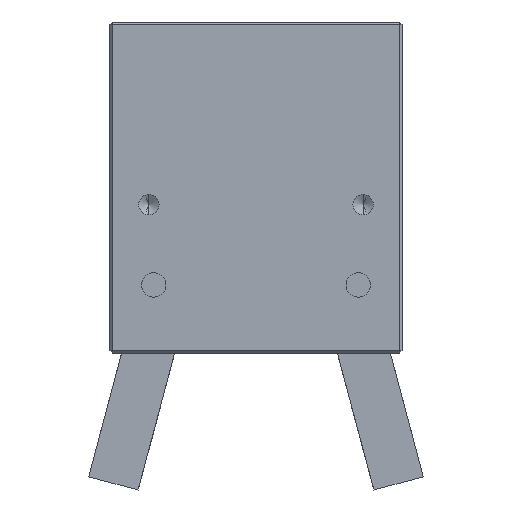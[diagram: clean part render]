
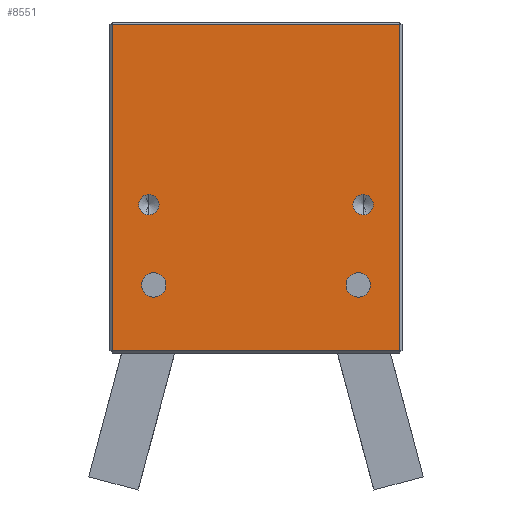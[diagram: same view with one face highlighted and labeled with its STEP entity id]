
A CAD part, left-side view. The second image highlights one B-rep face of the part: STEP entity #8551.
In plain terms, the highlighted planar face has unit normal (-1, 0, 0).
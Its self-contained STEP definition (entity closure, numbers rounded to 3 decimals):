
#71 = VERTEX_POINT ( 'NONE', #14282 ) ;
#72 = VERTEX_POINT ( 'NONE', #14222 ) ;
#74 = EDGE_CURVE ( 'NONE', #71, #72, #14281, .T. ) ;
#86 = VERTEX_POINT ( 'NONE', #14212 ) ;
#93 = VERTEX_POINT ( 'NONE', #14251 ) ;
#104 = EDGE_CURVE ( 'NONE', #93, #86, #14279, .T. ) ;
#3248 = ORIENTED_EDGE ( 'NONE', *, *, #104, .F. ) ;
#5480 = ORIENTED_EDGE ( 'NONE', *, *, #8408, .F. ) ;
#8408 = EDGE_CURVE ( 'NONE', #8783, #14659, #16190, .T. ) ;
#8531 = EDGE_LOOP ( 'NONE', ( #8563, #8570 ) ) ;
#8535 = ORIENTED_EDGE ( 'NONE', *, *, #74, .F. ) ;
#8536 = EDGE_LOOP ( 'NONE', ( #8550, #3248 ) ) ;
#8538 = EDGE_LOOP ( 'NONE', ( #8545, #8535 ) ) ;
#8542 = ORIENTED_EDGE ( 'NONE', *, *, #8785, .F. ) ;
#8544 = EDGE_CURVE ( 'NONE', #86, #93, #16537, .T. ) ;
#8545 = ORIENTED_EDGE ( 'NONE', *, *, #8547, .F. ) ;
#8547 = EDGE_CURVE ( 'NONE', #72, #71, #16586, .T. ) ;
#8550 = ORIENTED_EDGE ( 'NONE', *, *, #8544, .F. ) ;
#8551 = ADVANCED_FACE ( 'NONE', ( #16585, #16579, #16592, #16578, #16571 ), #16570, .F. ) ;
#8554 = ORIENTED_EDGE ( 'NONE', *, *, #8571, .T. ) ;
#8555 = EDGE_CURVE ( 'NONE', #8557, #8569, #16581, .T. ) ;
#8557 = VERTEX_POINT ( 'NONE', #16619 ) ;
#8558 = VERTEX_POINT ( 'NONE', #16629 ) ;
#8559 = VERTEX_POINT ( 'NONE', #16632 ) ;
#8561 = EDGE_LOOP ( 'NONE', ( #8562, #8554, #8589, #8564 ) ) ;
#8562 = ORIENTED_EDGE ( 'NONE', *, *, #8567, .T. ) ;
#8563 = ORIENTED_EDGE ( 'NONE', *, *, #8566, .F. ) ;
#8564 = ORIENTED_EDGE ( 'NONE', *, *, #8584, .T. ) ;
#8566 = EDGE_CURVE ( 'NONE', #8695, #15078, #16612, .T. ) ;
#8567 = EDGE_CURVE ( 'NONE', #8558, #8559, #16611, .T. ) ;
#8569 = VERTEX_POINT ( 'NONE', #16604 ) ;
#8570 = ORIENTED_EDGE ( 'NONE', *, *, #8791, .F. ) ;
#8571 = EDGE_CURVE ( 'NONE', #8559, #8557, #16602, .T. ) ;
#8584 = EDGE_CURVE ( 'NONE', #8569, #8558, #16643, .T. ) ;
#8589 = ORIENTED_EDGE ( 'NONE', *, *, #8555, .T. ) ;
#8695 = VERTEX_POINT ( 'NONE', #16843 ) ;
#8783 = VERTEX_POINT ( 'NONE', #17014 ) ;
#8785 = EDGE_CURVE ( 'NONE', #14659, #8783, #17019, .T. ) ;
#8791 = EDGE_CURVE ( 'NONE', #15078, #8695, #17057, .T. ) ;
#9057 = EDGE_LOOP ( 'NONE', ( #5480, #8542 ) ) ;
#14212 = CARTESIAN_POINT ( 'NONE',  ( 0., 48.5, 14. ) ) ;
#14220 = CARTESIAN_POINT ( 'NONE',  ( 0., 9., 14. ) ) ;
#14221 = AXIS2_PLACEMENT_3D ( 'NONE', #14220, #14264, #14263 ) ;
#14222 = CARTESIAN_POINT ( 'NONE',  ( 0., 6.5, 14. ) ) ;
#14251 = CARTESIAN_POINT ( 'NONE',  ( 0., 53.5, 14. ) ) ;
#14263 = DIRECTION ( 'NONE',  ( 0., -1., 0. ) ) ;
#14264 = DIRECTION ( 'NONE',  ( -1., 0., 0. ) ) ;
#14279 = CIRCLE ( 'NONE', #14290, 2.5 ) ;
#14281 = CIRCLE ( 'NONE', #14221, 2.5 ) ;
#14282 = CARTESIAN_POINT ( 'NONE',  ( 0., 11.5, 14. ) ) ;
#14283 = DIRECTION ( 'NONE',  ( 0., -1., 0. ) ) ;
#14287 = CARTESIAN_POINT ( 'NONE',  ( 0., 51., 14. ) ) ;
#14290 = AXIS2_PLACEMENT_3D ( 'NONE', #14287, #14294, #14283 ) ;
#14294 = DIRECTION ( 'NONE',  ( -1., 0., 0. ) ) ;
#14659 = VERTEX_POINT ( 'NONE', #31395 ) ;
#15078 = VERTEX_POINT ( 'NONE', #31421 ) ;
#16184 = DIRECTION ( 'NONE',  ( 0., 0., 1. ) ) ;
#16190 = CIRCLE ( 'NONE', #16195, 2.1 ) ;
#16195 = AXIS2_PLACEMENT_3D ( 'NONE', #16200, #16203, #16184 ) ;
#16200 = CARTESIAN_POINT ( 'NONE',  ( 0., 8., 30.5 ) ) ;
#16203 = DIRECTION ( 'NONE',  ( -1., 0., 0. ) ) ;
#16536 = CARTESIAN_POINT ( 'NONE',  ( 0., 9., 14. ) ) ;
#16537 = CIRCLE ( 'NONE', #16597, 2.5 ) ;
#16569 = CARTESIAN_POINT ( 'NONE',  ( 0., 60., 68. ) ) ;
#16570 = PLANE ( 'NONE',  #16580 ) ;
#16571 = FACE_OUTER_BOUND ( 'NONE', #8561, .T. ) ;
#16576 = DIRECTION ( 'NONE',  ( 0., -1., 0. ) ) ;
#16577 = DIRECTION ( 'NONE',  ( -1., 0., 0. ) ) ;
#16578 = FACE_BOUND ( 'NONE', #8531, .T. ) ;
#16579 = FACE_BOUND ( 'NONE', #8536, .T. ) ;
#16580 = AXIS2_PLACEMENT_3D ( 'NONE', #16569, #16631, #16630 ) ;
#16581 = LINE ( 'NONE', #16622, #16621 ) ;
#16585 = FACE_BOUND ( 'NONE', #8538, .T. ) ;
#16586 = CIRCLE ( 'NONE', #16593, 2.5 ) ;
#16587 = DIRECTION ( 'NONE',  ( 0., -1., 0. ) ) ;
#16588 = DIRECTION ( 'NONE',  ( -1., 0., 0. ) ) ;
#16589 = CARTESIAN_POINT ( 'NONE',  ( 0., 51., 14. ) ) ;
#16592 = FACE_BOUND ( 'NONE', #9057, .T. ) ;
#16593 = AXIS2_PLACEMENT_3D ( 'NONE', #16536, #16577, #16576 ) ;
#16597 = AXIS2_PLACEMENT_3D ( 'NONE', #16589, #16588, #16587 ) ;
#16601 = CARTESIAN_POINT ( 'NONE',  ( 0., 0.5, 68. ) ) ;
#16602 = LINE ( 'NONE', #16601, #16664 ) ;
#16603 = DIRECTION ( 'NONE',  ( 0., -1., 0. ) ) ;
#16604 = CARTESIAN_POINT ( 'NONE',  ( 0., 59.5, 67.5 ) ) ;
#16605 = DIRECTION ( 'NONE',  ( 0., 0., 1. ) ) ;
#16606 = DIRECTION ( 'NONE',  ( -1., 0., 0. ) ) ;
#16607 = CARTESIAN_POINT ( 'NONE',  ( 0., 52., 30.5 ) ) ;
#16608 = AXIS2_PLACEMENT_3D ( 'NONE', #16607, #16606, #16605 ) ;
#16610 = CARTESIAN_POINT ( 'NONE',  ( 0., 0., 0.5 ) ) ;
#16611 = LINE ( 'NONE', #16610, #16623 ) ;
#16612 = CIRCLE ( 'NONE', #16608, 2.1 ) ;
#16619 = CARTESIAN_POINT ( 'NONE',  ( 0., 0.5, 67.5 ) ) ;
#16620 = DIRECTION ( 'NONE',  ( 0., 1., 0. ) ) ;
#16621 = VECTOR ( 'NONE', #16620, 1000. ) ;
#16622 = CARTESIAN_POINT ( 'NONE',  ( 0., 60., 67.5 ) ) ;
#16623 = VECTOR ( 'NONE', #16603, 1000. ) ;
#16629 = CARTESIAN_POINT ( 'NONE',  ( 0., 59.5, 0.5 ) ) ;
#16630 = DIRECTION ( 'NONE',  ( 0., 1., 0. ) ) ;
#16631 = DIRECTION ( 'NONE',  ( 1., 0., 0. ) ) ;
#16632 = CARTESIAN_POINT ( 'NONE',  ( 0., 0.5, 0.5 ) ) ;
#16640 = DIRECTION ( 'NONE',  ( 0., 0., -1. ) ) ;
#16641 = VECTOR ( 'NONE', #16640, 1000. ) ;
#16642 = CARTESIAN_POINT ( 'NONE',  ( 0., 59.5, 68. ) ) ;
#16643 = LINE ( 'NONE', #16642, #16641 ) ;
#16663 = DIRECTION ( 'NONE',  ( 0., 0., 1. ) ) ;
#16664 = VECTOR ( 'NONE', #16663, 1000. ) ;
#16843 = CARTESIAN_POINT ( 'NONE',  ( 0., 52., 32.6 ) ) ;
#17014 = CARTESIAN_POINT ( 'NONE',  ( 0., 8., 32.6 ) ) ;
#17019 = CIRCLE ( 'NONE', #17034, 2.1 ) ;
#17034 = AXIS2_PLACEMENT_3D ( 'NONE', #17071, #17070, #17069 ) ;
#17052 = DIRECTION ( 'NONE',  ( 0., 0., 1. ) ) ;
#17053 = DIRECTION ( 'NONE',  ( -1., 0., 0. ) ) ;
#17054 = CARTESIAN_POINT ( 'NONE',  ( 0., 52., 30.5 ) ) ;
#17055 = AXIS2_PLACEMENT_3D ( 'NONE', #17054, #17053, #17052 ) ;
#17057 = CIRCLE ( 'NONE', #17055, 2.1 ) ;
#17069 = DIRECTION ( 'NONE',  ( 0., 0., 1. ) ) ;
#17070 = DIRECTION ( 'NONE',  ( -1., 0., 0. ) ) ;
#17071 = CARTESIAN_POINT ( 'NONE',  ( 0., 8., 30.5 ) ) ;
#31395 = CARTESIAN_POINT ( 'NONE',  ( 0., 8., 28.4 ) ) ;
#31421 = CARTESIAN_POINT ( 'NONE',  ( 0., 52., 28.4 ) ) ;
